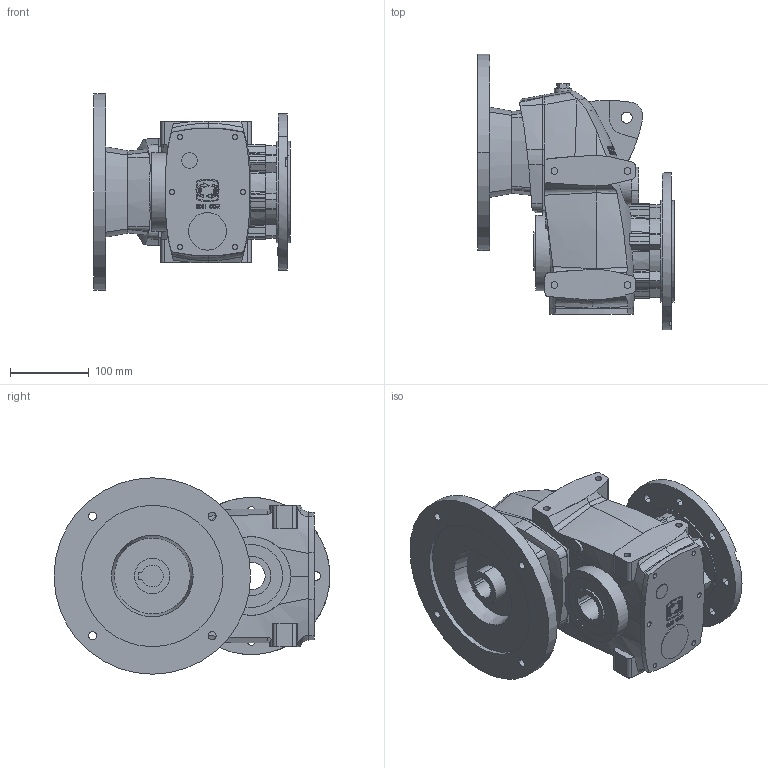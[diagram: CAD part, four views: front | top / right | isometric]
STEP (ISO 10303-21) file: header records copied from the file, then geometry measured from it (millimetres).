
FILE_DESCRIPTION((''),'2;1');
FILE_NAME('STON_4_ASM','2015-07-13T',('StemBG2'),(''),'PRO/ENGINEER BY PARAMETRIC TECHNOLOGY CORPORATION, 2008020','PRO/ENGINEER BY PARAMETRIC TECHNOLOGY CORPORATION, 2008020','');
FILE_SCHEMA(('AUTOMOTIVE_DESIGN_CC2 { 1 2 10303 214 -1 1 5 2 }'));
Length unit declared in the file: millimetre
Products named in the file (6): HOUST4; ICVEST4; TCVST4; IFL100112B5ST4; OFL200ST4; STON_4_ASM
Assembly tree (5 placements, depth 2):
  STON_4_ASM
    HOUST4
    ICVEST4
    TCVST4
    IFL100112B5ST4
    OFL200ST4
Bounding box: 250 x 351 x 250 mm (x, y, z)
Volume: 5877687.9 mm3; surface area: 540323.1 mm2
Topology: 5 solids, 5 shells, 1017 faces, 2790 edges, 1843 vertices
Faces by surface type: plane 499, cylinder 241, extrusion 147, bspline 92, cone 36, revolution 2
Entity records: 47156 total; most frequent: CARTESIAN_POINT 12033, ORIENTED_EDGE 5556, DIRECTION 4292, PRESENTATION_STYLE_ASSIGNMENT 2947, STYLED_ITEM 2783, CURVE_STYLE 2778, EDGE_CURVE 2778, VERTEX_POINT 1843
